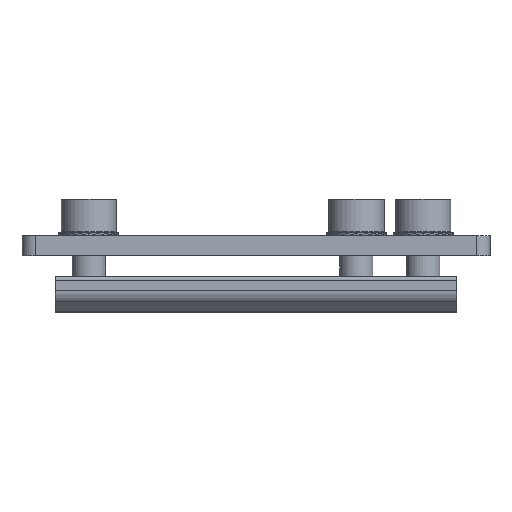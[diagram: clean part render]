
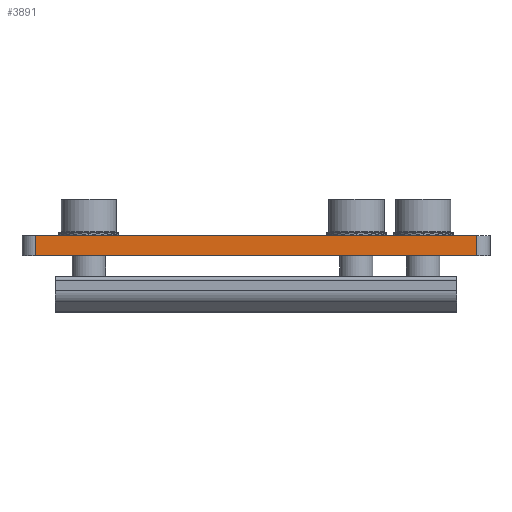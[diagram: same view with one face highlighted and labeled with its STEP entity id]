
A CAD part, front view. The second image highlights one B-rep face of the part: STEP entity #3891.
In plain terms, the highlighted planar face has unit normal (0, -1, 0).
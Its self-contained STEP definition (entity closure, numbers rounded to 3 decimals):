
#320 = DIRECTION ( 'NONE',  ( 0., -1., 0. ) ) ;
#590 = DIRECTION ( 'NONE',  ( 0., 0., 1. ) ) ;
#693 = LINE ( 'NONE', #4239, #10233 ) ;
#767 = VECTOR ( 'NONE', #3674, 1000. ) ;
#1006 = AXIS2_PLACEMENT_3D ( 'NONE', #9267, #320, #6564 ) ;
#1039 = VERTEX_POINT ( 'NONE', #3156 ) ;
#1764 = EDGE_LOOP ( 'NONE', ( #5344, #3561, #2033, #2579 ) ) ;
#1829 = VECTOR ( 'NONE', #10370, 1000. ) ;
#1875 = CARTESIAN_POINT ( 'NONE',  ( -10.257, -38.546, 13.545 ) ) ;
#2033 = ORIENTED_EDGE ( 'NONE', *, *, #5490, .T. ) ;
#2233 = CARTESIAN_POINT ( 'NONE',  ( -10.257, -38.546, 13.545 ) ) ;
#2309 = CARTESIAN_POINT ( 'NONE',  ( -76.257, -38.546, 16.545 ) ) ;
#2579 = ORIENTED_EDGE ( 'NONE', *, *, #9200, .T. ) ;
#3156 = CARTESIAN_POINT ( 'NONE',  ( -76.257, -38.546, 16.545 ) ) ;
#3561 = ORIENTED_EDGE ( 'NONE', *, *, #10990, .F. ) ;
#3674 = DIRECTION ( 'NONE',  ( 0., 0., 1. ) ) ;
#3891 = ADVANCED_FACE ( 'NONE', ( #5424 ), #11051, .T. ) ;
#4239 = CARTESIAN_POINT ( 'NONE',  ( -76.257, -38.546, 13.545 ) ) ;
#5344 = ORIENTED_EDGE ( 'NONE', *, *, #5406, .F. ) ;
#5406 = EDGE_CURVE ( 'NONE', #1039, #6947, #11337, .T. ) ;
#5424 = FACE_OUTER_BOUND ( 'NONE', #1764, .T. ) ;
#5490 = EDGE_CURVE ( 'NONE', #6794, #6910, #693, .T. ) ;
#6494 = CARTESIAN_POINT ( 'NONE',  ( -76.257, -38.546, 13.545 ) ) ;
#6564 = DIRECTION ( 'NONE',  ( 0., 0., -1. ) ) ;
#6696 = CARTESIAN_POINT ( 'NONE',  ( -10.257, -38.546, 16.545 ) ) ;
#6794 = VERTEX_POINT ( 'NONE', #6494 ) ;
#6830 = CARTESIAN_POINT ( 'NONE',  ( -76.257, -38.546, 13.545 ) ) ;
#6847 = DIRECTION ( 'NONE',  ( 1., 0., 0. ) ) ;
#6910 = VERTEX_POINT ( 'NONE', #2233 ) ;
#6947 = VERTEX_POINT ( 'NONE', #6696 ) ;
#8942 = LINE ( 'NONE', #6830, #11307 ) ;
#9200 = EDGE_CURVE ( 'NONE', #6910, #6947, #10019, .T. ) ;
#9267 = CARTESIAN_POINT ( 'NONE',  ( -76.257, -38.546, 13.545 ) ) ;
#10019 = LINE ( 'NONE', #1875, #767 ) ;
#10233 = VECTOR ( 'NONE', #6847, 1000. ) ;
#10370 = DIRECTION ( 'NONE',  ( 1., 0., 0. ) ) ;
#10990 = EDGE_CURVE ( 'NONE', #6794, #1039, #8942, .T. ) ;
#11051 = PLANE ( 'NONE',  #1006 ) ;
#11307 = VECTOR ( 'NONE', #590, 1000. ) ;
#11337 = LINE ( 'NONE', #2309, #1829 ) ;
